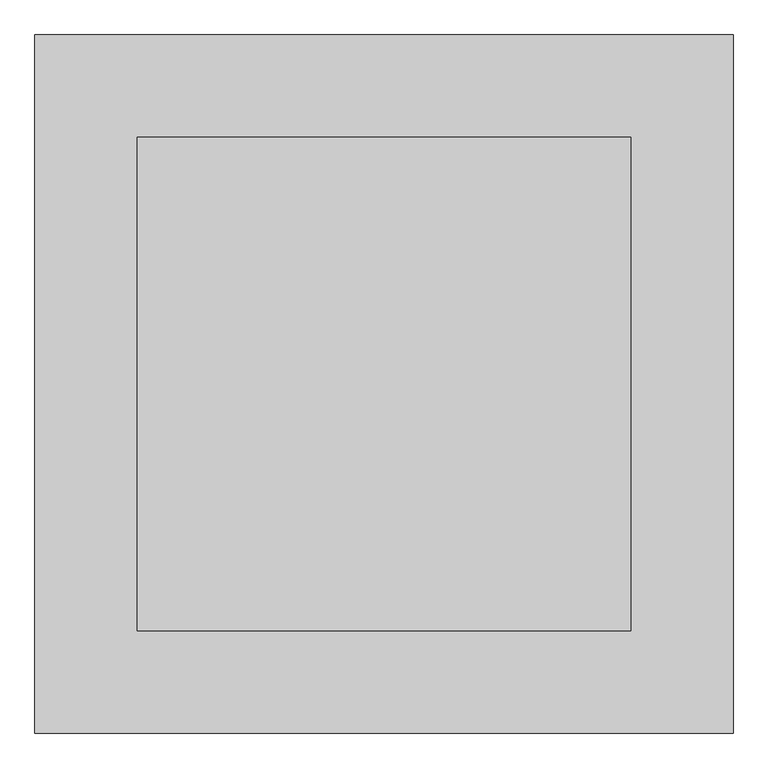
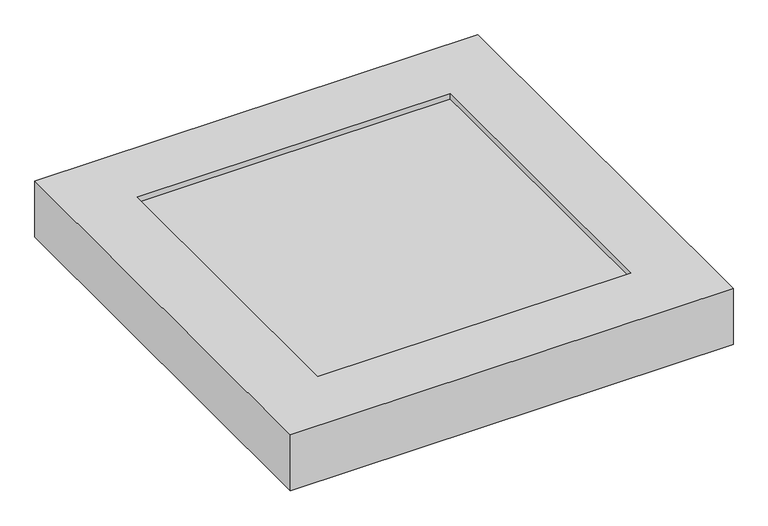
"""IFC4 building model written with IfcOpenShell, lengths in millimetres: furniture geometry, Sandkasten : Sandkasten."""

from ifc_helpers import new_model, si_unit, frame, origin, origin_with_axes, place, context, project, spatial, polyline, outline, extrude, source, transform, mapped, element, save


def furniture_ff813913(model_context):
    return source(origin(), model_context, "Body", "SweptSolid", [
        extrude(outline(polyline([(530.0, -530.0), (-530.0, -530.0), (-530.0, 530.0), (530.0, 530.0), (530.0, -530.0)])), frame((0.0, 0.0, 20.0), z_axis=(0.0, 0.0, 1.0), x_axis=(1.0, 0.0, 0.0)), (0.0, 0.0, 1.0), 160.0),
        extrude(outline(polyline([(530.0, -530.0), (-530.0, -530.0), (-530.0, 530.0), (530.0, 530.0), (530.0, -530.0)])), origin_with_axes(), (0.0, 0.0, 1.0), 20.0),
        extrude(outline(polyline([(750.0, -750.0), (-750.0, -750.0), (-750.0, 750.0), (750.0, 750.0), (750.0, -750.0)]), holes=[polyline([(-530.0, -530.0), (530.0, -530.0), (530.0, 530.0), (-530.0, 530.0), (-530.0, -530.0)])]), origin_with_axes(), (0.0, 0.0, 1.0), 200.0),
    ])


if __name__ == "__main__":
    model = new_model("IFC4")
    model_context = context("Model", 3, world=origin())
    ifc_project = project(units=[si_unit("LENGTHUNIT", "METRE", prefix="MILLI")], contexts=[model_context])
    site = spatial("IfcSite", under=ifc_project)
    building = spatial("IfcBuilding", under=site)
    placement = place(None, origin())
    furniture_shape = furniture_ff813913(model_context)
    element("IfcFurniture", 1, ObjectType="Sandkasten : Sandkasten", at=placement, inside=building, context=model_context, shape_type="MappedRepresentation", body=[
        mapped(furniture_shape, transform((0.0, 0.0, 0.0), x_axis=(1.0, 0.0, 0.0), y_axis=(0.0, 1.0, 0.0), z_axis=(0.0, 0.0, 1.0))),
    ])
    save(model, "model.ifc")
